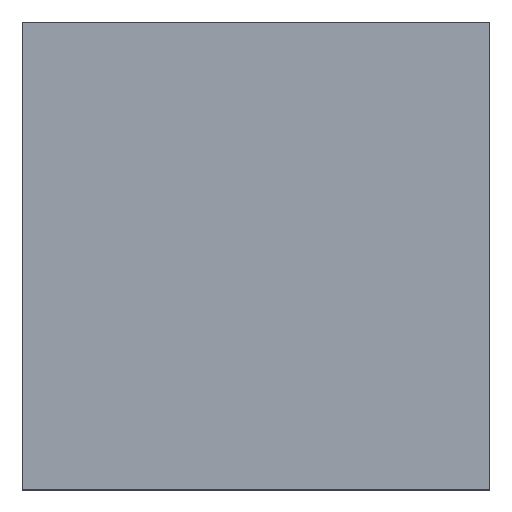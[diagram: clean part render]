
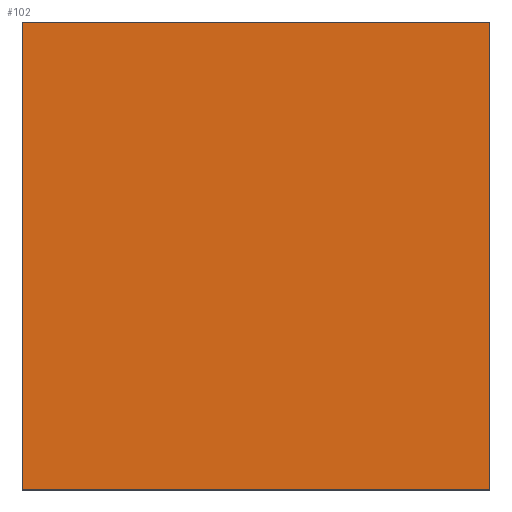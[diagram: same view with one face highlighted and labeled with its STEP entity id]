
A CAD part, top view. The second image highlights one B-rep face of the part: STEP entity #102.
In plain terms, the highlighted planar face has unit normal (0, 0, 1).
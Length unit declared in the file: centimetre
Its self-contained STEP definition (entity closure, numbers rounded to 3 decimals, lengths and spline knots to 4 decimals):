
#16=FACE_OUTER_BOUND('',#22,.T.);
#22=EDGE_LOOP('',(#75,#76,#77,#78));
#31=LINE('',#166,#43);
#32=LINE('',#168,#44);
#33=LINE('',#170,#45);
#34=LINE('',#171,#46);
#43=VECTOR('',#137,0.1);
#44=VECTOR('',#138,0.1);
#45=VECTOR('',#139,0.1);
#46=VECTOR('',#140,0.1);
#55=VERTEX_POINT('',#164);
#56=VERTEX_POINT('',#165);
#57=VERTEX_POINT('',#167);
#58=VERTEX_POINT('',#169);
#63=EDGE_CURVE('',#55,#56,#31,.T.);
#64=EDGE_CURVE('',#56,#57,#32,.T.);
#65=EDGE_CURVE('',#57,#58,#33,.T.);
#66=EDGE_CURVE('',#58,#55,#34,.T.);
#75=ORIENTED_EDGE('',*,*,#63,.T.);
#76=ORIENTED_EDGE('',*,*,#64,.T.);
#77=ORIENTED_EDGE('',*,*,#65,.T.);
#78=ORIENTED_EDGE('',*,*,#66,.T.);
#96=PLANE('',#122);
#102=ADVANCED_FACE('',(#16),#96,.F.);
#122=AXIS2_PLACEMENT_3D('',#163,#135,#136);
#135=DIRECTION('center_axis',(0.,0.,-1.));
#136=DIRECTION('ref_axis',(-1.,0.,0.));
#137=DIRECTION('',(0.,-1.,0.));
#138=DIRECTION('',(1.,0.,0.));
#139=DIRECTION('',(0.,1.,0.));
#140=DIRECTION('',(-1.,0.,0.));
#163=CARTESIAN_POINT('Origin',(-0.53,-0.204,-1.22));
#164=CARTESIAN_POINT('',(-1.73,0.996,-1.22));
#165=CARTESIAN_POINT('',(-1.73,-1.404,-1.22));
#166=CARTESIAN_POINT('',(-1.73,-0.204,-1.22));
#167=CARTESIAN_POINT('',(0.67,-1.404,-1.22));
#168=CARTESIAN_POINT('',(-0.53,-1.404,-1.22));
#169=CARTESIAN_POINT('',(0.67,0.996,-1.22));
#170=CARTESIAN_POINT('',(0.67,-0.204,-1.22));
#171=CARTESIAN_POINT('',(-0.53,0.996,-1.22));
